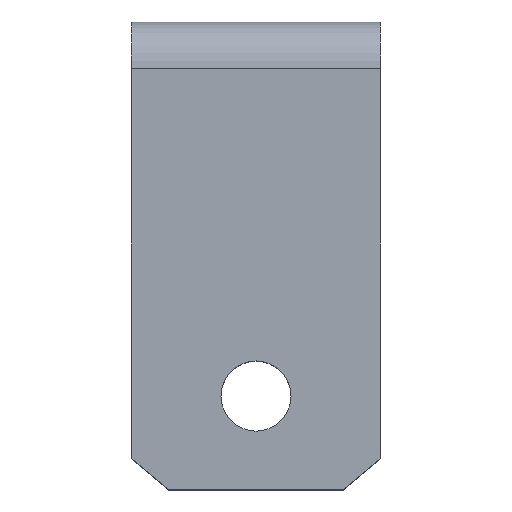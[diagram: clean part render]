
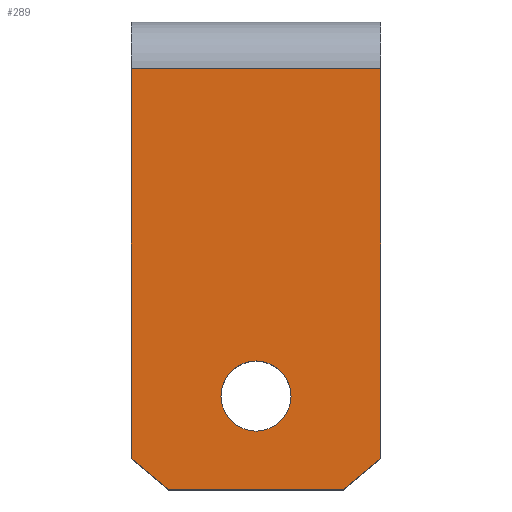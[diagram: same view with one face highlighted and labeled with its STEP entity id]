
A CAD part, top view. The second image highlights one B-rep face of the part: STEP entity #289.
In plain terms, the highlighted planar face has unit normal (0, 0, 1).
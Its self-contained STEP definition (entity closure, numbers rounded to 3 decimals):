
#59 = AXIS2_PLACEMENT_3D ( 'NONE', #886, #894, #895 ) ;
#73 = AXIS2_PLACEMENT_3D ( 'NONE', #1050, #1051, #1052 ) ;
#74 = AXIS2_PLACEMENT_3D ( 'NONE', #1034, #1035, #1036 ) ;
#118 = EDGE_CURVE ( 'NONE', #1379, #1437, #573, .T. ) ;
#159 = EDGE_CURVE ( 'NONE', #1412, #1452, #711, .T. ) ;
#183 = EDGE_CURVE ( 'NONE', #1434, #1369, #691, .T. ) ;
#186 = EDGE_CURVE ( 'NONE', #1351, #1440, #674, .T. ) ;
#190 = EDGE_CURVE ( 'NONE', #1369, #1434, #677, .T. ) ;
#196 = EDGE_CURVE ( 'NONE', #1440, #1437, #654, .T. ) ;
#197 = EDGE_CURVE ( 'NONE', #1379, #1412, #650, .T. ) ;
#198 = EDGE_CURVE ( 'NONE', #1452, #1351, #658, .T. ) ;
#259 = CARTESIAN_POINT ( 'NONE',  ( 8., 4., 20.5 ) ) ;
#265 = DIRECTION ( 'NONE',  ( 0., -1., 0. ) ) ;
#289 = ADVANCED_FACE ( 'NONE', ( #687, #1126 ), #892, .T. ) ;
#324 = CARTESIAN_POINT ( 'NONE',  ( -8., -24., 20.5 ) ) ;
#375 = CARTESIAN_POINT ( 'NONE',  ( -5.616, -26., 20.5 ) ) ;
#390 = CARTESIAN_POINT ( 'NONE',  ( 2.25, -20., 20.5 ) ) ;
#397 = CARTESIAN_POINT ( 'NONE',  ( 8., 1., 20.5 ) ) ;
#417 = CARTESIAN_POINT ( 'NONE',  ( -8., 1., 20.5 ) ) ;
#431 = CARTESIAN_POINT ( 'NONE',  ( -2.25, -20., 20.5 ) ) ;
#432 = CARTESIAN_POINT ( 'NONE',  ( 8., -24., 20.5 ) ) ;
#435 = CARTESIAN_POINT ( 'NONE',  ( 5.616, -26., 20.5 ) ) ;
#573 = LINE ( 'NONE', #259, #581 ) ;
#581 = VECTOR ( 'NONE', #265, 1000. ) ;
#650 = LINE ( 'NONE', #951, #660 ) ;
#654 = LINE ( 'NONE', #1060, #656 ) ;
#656 = VECTOR ( 'NONE', #950, 1000. ) ;
#658 = LINE ( 'NONE', #953, #664 ) ;
#660 = VECTOR ( 'NONE', #952, 1000. ) ;
#664 = VECTOR ( 'NONE', #954, 1000. ) ;
#674 = LINE ( 'NONE', #1039, #676 ) ;
#676 = VECTOR ( 'NONE', #1040, 1000. ) ;
#677 = CIRCLE ( 'NONE', #73, 2.25 ) ;
#687 = FACE_BOUND ( 'NONE', #1380, .T. ) ;
#691 = CIRCLE ( 'NONE', #74, 2.25 ) ;
#711 = LINE ( 'NONE', #765, #713 ) ;
#713 = VECTOR ( 'NONE', #761, 1000. ) ;
#761 = DIRECTION ( 'NONE',  ( 0., -1., 0. ) ) ;
#765 = CARTESIAN_POINT ( 'NONE',  ( -8., 4., 20.5 ) ) ;
#886 = CARTESIAN_POINT ( 'NONE',  ( -8., 4., 20.5 ) ) ;
#892 = PLANE ( 'NONE',  #59 ) ;
#894 = DIRECTION ( 'NONE',  ( 0., 0., 1. ) ) ;
#895 = DIRECTION ( 'NONE',  ( 0., -1., 0. ) ) ;
#950 = DIRECTION ( 'NONE',  ( 0.766, 0.643, 0. ) ) ;
#951 = CARTESIAN_POINT ( 'NONE',  ( -8., 1., 20.5 ) ) ;
#952 = DIRECTION ( 'NONE',  ( -1., 0., 0. ) ) ;
#953 = CARTESIAN_POINT ( 'NONE',  ( -21.787, -12.431, 20.5 ) ) ;
#954 = DIRECTION ( 'NONE',  ( 0.766, -0.643, 0. ) ) ;
#1034 = CARTESIAN_POINT ( 'NONE',  ( 0., -20., 20.5 ) ) ;
#1035 = DIRECTION ( 'NONE',  ( 0., 0., 1. ) ) ;
#1036 = DIRECTION ( 'NONE',  ( 1., 0., 0. ) ) ;
#1039 = CARTESIAN_POINT ( 'NONE',  ( -8., -26., 20.5 ) ) ;
#1040 = DIRECTION ( 'NONE',  ( 1., 0., 0. ) ) ;
#1050 = CARTESIAN_POINT ( 'NONE',  ( 0., -20., 20.5 ) ) ;
#1051 = DIRECTION ( 'NONE',  ( 0., 0., 1. ) ) ;
#1052 = DIRECTION ( 'NONE',  ( 1., 0., 0. ) ) ;
#1060 = CARTESIAN_POINT ( 'NONE',  ( 12.398, -20.31, 20.5 ) ) ;
#1126 = FACE_OUTER_BOUND ( 'NONE', #1359, .T. ) ;
#1208 = ORIENTED_EDGE ( 'NONE', *, *, #190, .F. ) ;
#1210 = ORIENTED_EDGE ( 'NONE', *, *, #183, .F. ) ;
#1212 = ORIENTED_EDGE ( 'NONE', *, *, #186, .T. ) ;
#1214 = ORIENTED_EDGE ( 'NONE', *, *, #196, .T. ) ;
#1216 = ORIENTED_EDGE ( 'NONE', *, *, #118, .F. ) ;
#1217 = ORIENTED_EDGE ( 'NONE', *, *, #159, .T. ) ;
#1218 = ORIENTED_EDGE ( 'NONE', *, *, #198, .T. ) ;
#1222 = ORIENTED_EDGE ( 'NONE', *, *, #197, .T. ) ;
#1351 = VERTEX_POINT ( 'NONE', #375 ) ;
#1359 = EDGE_LOOP ( 'NONE', ( #1212, #1214, #1216, #1222, #1217, #1218 ) ) ;
#1369 = VERTEX_POINT ( 'NONE', #390 ) ;
#1379 = VERTEX_POINT ( 'NONE', #397 ) ;
#1380 = EDGE_LOOP ( 'NONE', ( #1208, #1210 ) ) ;
#1412 = VERTEX_POINT ( 'NONE', #417 ) ;
#1434 = VERTEX_POINT ( 'NONE', #431 ) ;
#1437 = VERTEX_POINT ( 'NONE', #432 ) ;
#1440 = VERTEX_POINT ( 'NONE', #435 ) ;
#1452 = VERTEX_POINT ( 'NONE', #324 ) ;
